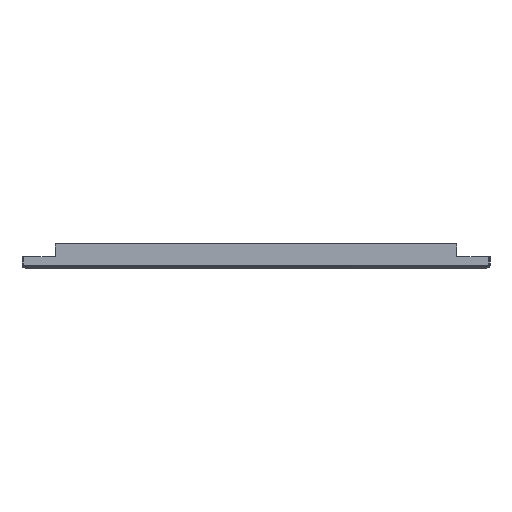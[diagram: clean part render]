
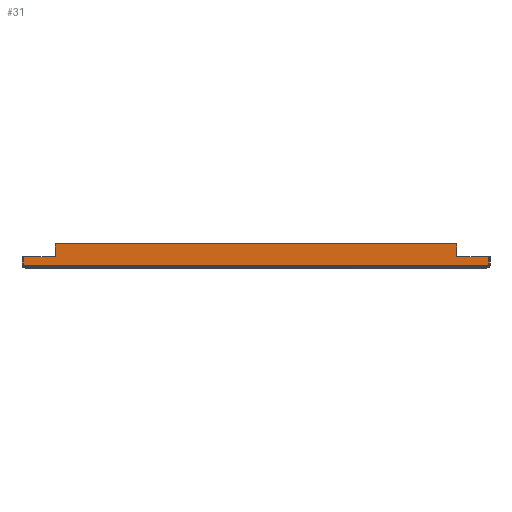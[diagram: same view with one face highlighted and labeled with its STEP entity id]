
A CAD part, left-side view. The second image highlights one B-rep face of the part: STEP entity #31.
In plain terms, the highlighted planar face has unit normal (-1, 0, 0) as drawn and (1, 0, 0) by its records, which use the part's own axes.
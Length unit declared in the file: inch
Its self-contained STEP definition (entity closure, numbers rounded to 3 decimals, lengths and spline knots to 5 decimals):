
#31 = ADVANCED_FACE ( 'NONE', ( #2169 ), #623, .F. ) ;
#549 = CARTESIAN_POINT ( 'NONE',  ( 34.233, -7.65179, -0.38 ) ) ;
#612 = CARTESIAN_POINT ( 'NONE',  ( 34.233, 8.9255, 0. ) ) ;
#623 = PLANE ( 'NONE',  #4317 ) ;
#672 = VERTEX_POINT ( 'NONE', #900 ) ;
#701 = VERTEX_POINT ( 'NONE', #549 ) ;
#768 = VERTEX_POINT ( 'NONE', #3617 ) ;
#805 = DIRECTION ( 'NONE',  ( -1., 0., 0. ) ) ;
#826 = DIRECTION ( 'NONE',  ( 0., 0., 1. ) ) ;
#900 = CARTESIAN_POINT ( 'NONE',  ( 34.233, -8.86979, -0.38 ) ) ;
#913 = VERTEX_POINT ( 'NONE', #3551 ) ;
#988 = VERTEX_POINT ( 'NONE', #3526 ) ;
#1002 = VERTEX_POINT ( 'NONE', #3522 ) ;
#1061 = VERTEX_POINT ( 'NONE', #3497 ) ;
#1169 = VERTEX_POINT ( 'NONE', #3469 ) ;
#1387 = ORIENTED_EDGE ( 'NONE', *, *, #4099, .F. ) ;
#1389 = ORIENTED_EDGE ( 'NONE', *, *, #4179, .F. ) ;
#1390 = ORIENTED_EDGE ( 'NONE', *, *, #4104, .F. ) ;
#1391 = ORIENTED_EDGE ( 'NONE', *, *, #3987, .F. ) ;
#1392 = ORIENTED_EDGE ( 'NONE', *, *, #4178, .F. ) ;
#1393 = ORIENTED_EDGE ( 'NONE', *, *, #3995, .F. ) ;
#1437 = ORIENTED_EDGE ( 'NONE', *, *, #4106, .T. ) ;
#1439 = ORIENTED_EDGE ( 'NONE', *, *, #4180, .F. ) ;
#1843 = EDGE_LOOP ( 'NONE', ( #1437, #1439, #1393, #1390, #1392, #1391, #1387, #1389 ) ) ;
#2169 = FACE_OUTER_BOUND ( 'NONE', #1843, .T. ) ;
#2408 = LINE ( 'NONE', #3292, #2409 ) ;
#2409 = VECTOR ( 'NONE', #3293, 39.37008 ) ;
#2416 = LINE ( 'NONE', #3182, #2424 ) ;
#2424 = VECTOR ( 'NONE', #3160, 39.37008 ) ;
#2585 = LINE ( 'NONE', #3050, #2597 ) ;
#2597 = VECTOR ( 'NONE', #2982, 39.37008 ) ;
#2600 = LINE ( 'NONE', #3146, #2611 ) ;
#2607 = LINE ( 'NONE', #3084, #2608 ) ;
#2608 = VECTOR ( 'NONE', #3083, 39.37008 ) ;
#2611 = VECTOR ( 'NONE', #2877, 39.37008 ) ;
#2743 = LINE ( 'NONE', #3651, #2755 ) ;
#2744 = LINE ( 'NONE', #3652, #2751 ) ;
#2751 = VECTOR ( 'NONE', #3632, 39.37008 ) ;
#2753 = LINE ( 'NONE', #3638, #2754 ) ;
#2754 = VECTOR ( 'NONE', #3630, 39.37008 ) ;
#2755 = VECTOR ( 'NONE', #3648, 39.37008 ) ;
#2877 = DIRECTION ( 'NONE',  ( 0., 0., -1. ) ) ;
#2982 = DIRECTION ( 'NONE',  ( 0., 0., -1. ) ) ;
#3050 = CARTESIAN_POINT ( 'NONE',  ( 34.233, 8.86979, 0. ) ) ;
#3083 = DIRECTION ( 'NONE',  ( 0., -1., 0. ) ) ;
#3084 = CARTESIAN_POINT ( 'NONE',  ( 34.233, 8.9255, -0.872 ) ) ;
#3146 = CARTESIAN_POINT ( 'NONE',  ( 34.233, -8.86979, 0. ) ) ;
#3160 = DIRECTION ( 'NONE',  ( 0., 0., 1. ) ) ;
#3182 = CARTESIAN_POINT ( 'NONE',  ( 34.233, -7.65179, -0.38 ) ) ;
#3292 = CARTESIAN_POINT ( 'NONE',  ( 34.233, 8.86979, -0.38 ) ) ;
#3293 = DIRECTION ( 'NONE',  ( 0., -1., 0. ) ) ;
#3469 = CARTESIAN_POINT ( 'NONE',  ( 34.233, 8.86979, -0.06 ) ) ;
#3497 = CARTESIAN_POINT ( 'NONE',  ( 34.233, -8.86979, -0.06 ) ) ;
#3522 = CARTESIAN_POINT ( 'NONE',  ( 34.233, 7.65179, -0.38 ) ) ;
#3526 = CARTESIAN_POINT ( 'NONE',  ( 34.233, -7.65179, -0.872 ) ) ;
#3551 = CARTESIAN_POINT ( 'NONE',  ( 34.233, 8.86979, -0.38 ) ) ;
#3617 = CARTESIAN_POINT ( 'NONE',  ( 34.233, 7.65179, -0.872 ) ) ;
#3630 = DIRECTION ( 'NONE',  ( 0., 1., 0. ) ) ;
#3632 = DIRECTION ( 'NONE',  ( 0., 0., -1. ) ) ;
#3638 = CARTESIAN_POINT ( 'NONE',  ( 34.233, 8.9255, -0.06 ) ) ;
#3648 = DIRECTION ( 'NONE',  ( 0., -1., 0. ) ) ;
#3651 = CARTESIAN_POINT ( 'NONE',  ( 34.233, -8.86979, -0.38 ) ) ;
#3652 = CARTESIAN_POINT ( 'NONE',  ( 34.233, 7.65179, -0.38 ) ) ;
#3987 = EDGE_CURVE ( 'NONE', #913, #1002, #2408, .T. ) ;
#3995 = EDGE_CURVE ( 'NONE', #988, #701, #2416, .T. ) ;
#4099 = EDGE_CURVE ( 'NONE', #1169, #913, #2585, .T. ) ;
#4104 = EDGE_CURVE ( 'NONE', #768, #988, #2607, .T. ) ;
#4106 = EDGE_CURVE ( 'NONE', #1061, #672, #2600, .T. ) ;
#4178 = EDGE_CURVE ( 'NONE', #1002, #768, #2744, .T. ) ;
#4179 = EDGE_CURVE ( 'NONE', #1061, #1169, #2753, .T. ) ;
#4180 = EDGE_CURVE ( 'NONE', #701, #672, #2743, .T. ) ;
#4317 = AXIS2_PLACEMENT_3D ( 'NONE', #612, #805, #826 ) ;
